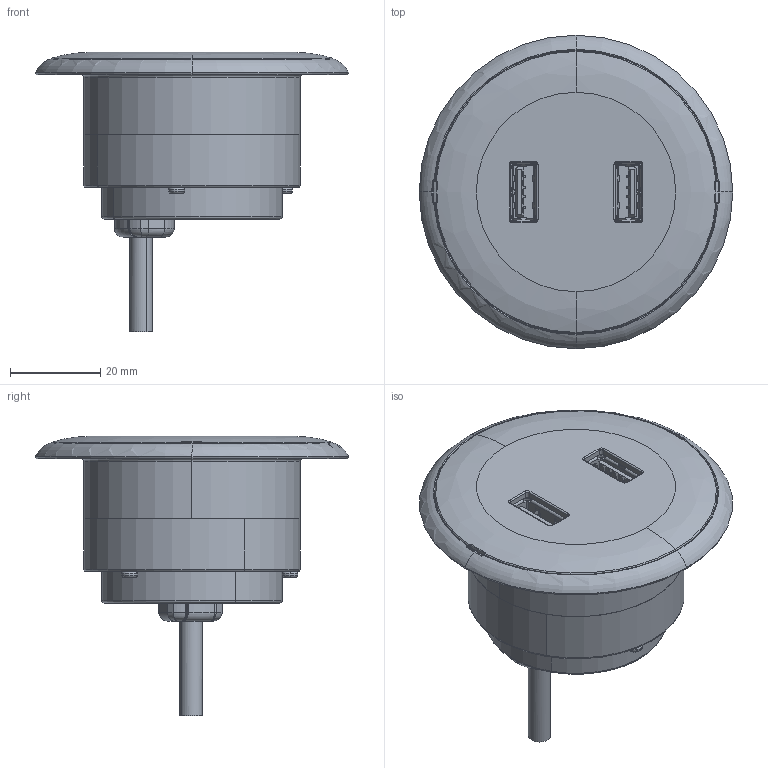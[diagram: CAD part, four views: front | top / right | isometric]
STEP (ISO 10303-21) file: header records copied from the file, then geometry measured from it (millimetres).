
FILE_DESCRIPTION (( 'STEP AP203' ), '1' );
FILE_NAME ('3D_TFA1-A.STEP', '2017-02-10T02:29:54', ( 'Phil Lee' ), ( 'Toshiba' ), 'SwSTEP 2.0', 'SolidWorks 2015', '' );
FILE_SCHEMA (( 'CONFIG_CONTROL_DESIGN' ));
Length unit declared in the file: millimetre
Products named in the file (1): 3D_TFA1-A
Bounding box: 69.5 x 69.5 x 61.98 mm (x, y, z)
Volume: 67184.4 mm3; surface area: 29408.7 mm2
Topology: 29 solids, 29 shells, 2446 faces, 6454 edges, 4083 vertices
Faces by surface type: plane 1449, cylinder 676, bspline 193, torus 79, cone 37, sphere 12
Entity records: 80994 total; most frequent: CARTESIAN_POINT 21203, ORIENTED_EDGE 12908, DIRECTION 11683, EDGE_CURVE 6454, LINE 4503, VECTOR 4503, VERTEX_POINT 4083, AXIS2_PLACEMENT_3D 3590
